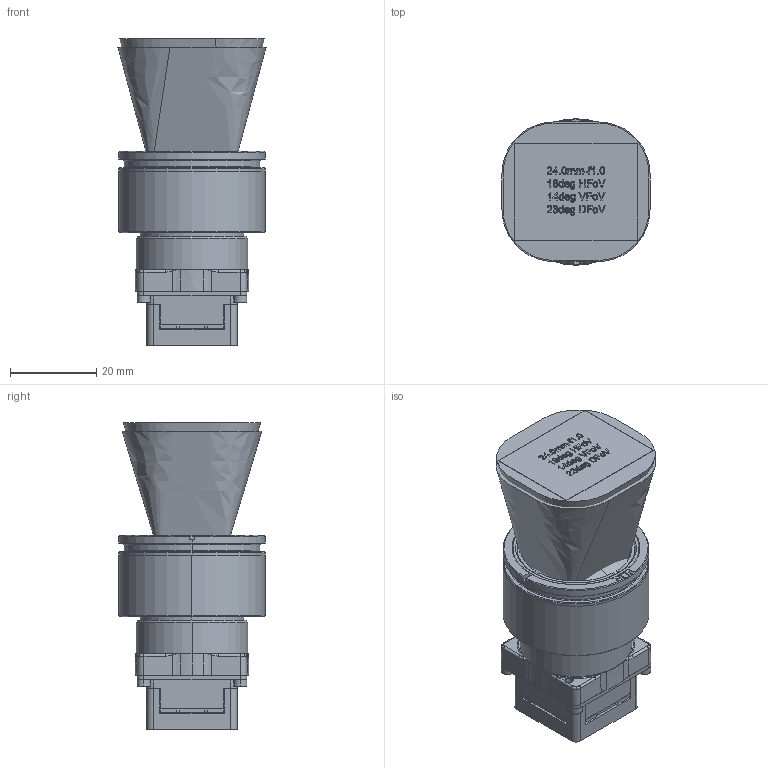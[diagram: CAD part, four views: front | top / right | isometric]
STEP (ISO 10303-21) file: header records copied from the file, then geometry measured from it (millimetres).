
FILE_DESCRIPTION (( 'STEP AP214' ), '1' );
FILE_NAME ('21-Boson 640SL 24.0mm-f1.0, 18deg HFoV 9Hz.STEP', '2018-04-13T15:04:57', ( '' ), ( '' ), 'SwSTEP 2.0', 'SolidWorks 2017', '' );
FILE_SCHEMA (( 'AUTOMOTIVE_DESIGN' ));
Length unit declared in the file: millimetre
Products named in the file (11): Optical Area 24mm-f1.0, Boson 640; Lens Assy, 24mm-f1.0; Lens Holder, M24x0.5-BosonSL 640; Adapter Plate, Boson 640 M24; Screw SHC, M-1.6 x 0.35 x 4; Label, Boson Camera 9Hz; Screw FLPH M1.6x0.35 x 6mm L; PCBA Boson Main; Boson Frame, Main Board; Sensor Module, Boson 640; 21-Boson 640SL 24.0mm-f1.0, 18deg HFoV 9Hz
Assembly tree (16 placements, depth 2):
  21-Boson 640SL 24.0mm-f1.0, 18deg HFoV 9Hz
    Sensor Module, Boson 640
    Boson Frame, Main Board
    PCBA Boson Main
    Screw FLPH M1.6x0.35 x 6mm L  x4
    Label, Boson Camera 9Hz
    Screw SHC, M-1.6 x 0.35 x 4  x4
    Adapter Plate, Boson 640 M24
    Lens Holder, M24x0.5-BosonSL 640
    Lens Assy, 24mm-f1.0
    Optical Area 24mm-f1.0, Boson 640
Bounding box: 34.41 x 34 x 71.6 mm (x, y, z)
Volume: 43839.4 mm3; surface area: 28921.7 mm2
Topology: 29 solids, 29 shells, 4178 faces, 11190 edges, 7293 vertices
Faces by surface type: plane 2507, bspline 677, cylinder 674, cone 272, torus 44, sphere 4
Entity records: 196320 total; most frequent: CARTESIAN_POINT 60702, ORIENTED_EDGE 21530, DIRECTION 17521, EDGE_CURVE 10765, VECTOR 7525, LINE 7525, VERTEX_POINT 7071, AXIS2_PLACEMENT_3D 4998
